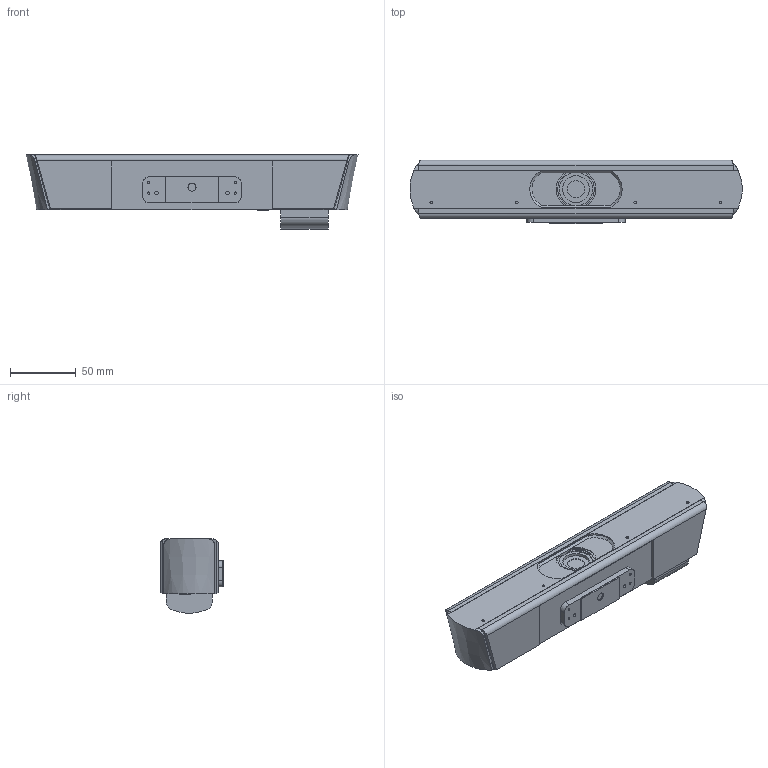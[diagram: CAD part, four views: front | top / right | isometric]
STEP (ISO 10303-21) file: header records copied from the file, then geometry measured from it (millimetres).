
FILE_DESCRIPTION (( 'STEP AP203' ), '1' );
FILE_NAME ('FG-901662-3D-A (Standalone Camera).STEP', '2025-09-10T19:39:32', ( '' ), ( '' ), 'SwSTEP 2.0', 'SolidWorks 2023', '' );
FILE_SCHEMA (( 'CONFIG_CONTROL_DESIGN' ));
Length unit declared in the file: millimetre
Products named in the file (1): FG-901662-3D-A (Standalone Camera)
Bounding box: 252.45 x 48.53 x 56.31 mm (x, y, z)
Volume: 446922.2 mm3; surface area: 94917.3 mm2
Topology: 6 solids, 8 shells, 172 faces, 405 edges, 265 vertices
Faces by surface type: plane 104, cylinder 63, cone 5
Entity records: 5101 total; most frequent: CARTESIAN_POINT 983, DIRECTION 848, ORIENTED_EDGE 810, EDGE_CURVE 405, AXIS2_PLACEMENT_3D 294, VERTEX_POINT 265, LINE 260, VECTOR 260
